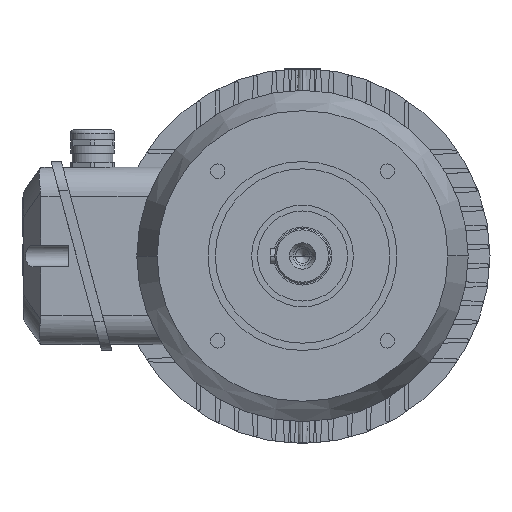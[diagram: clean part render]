
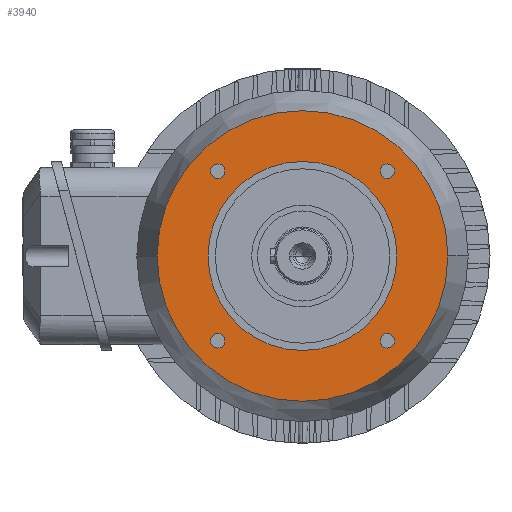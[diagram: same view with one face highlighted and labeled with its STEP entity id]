
A CAD part, left-side view. The second image highlights one B-rep face of the part: STEP entity #3940.
In plain terms, the highlighted planar face has unit normal (-1, 0, 0).
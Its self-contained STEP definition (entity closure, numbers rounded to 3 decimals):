
#486 = ORIENTED_EDGE ( 'NONE', *, *, #10160, .F. ) ;
#1226 = CARTESIAN_POINT ( 'NONE',  ( -70., 58.336, 58.336 ) ) ;
#1268 = FACE_BOUND ( 'NONE', #22925, .T. ) ;
#1806 = VERTEX_POINT ( 'NONE', #25703 ) ;
#3317 = CARTESIAN_POINT ( 'NONE',  ( -70., 100., 0. ) ) ;
#3547 = DIRECTION ( 'NONE',  ( -1., 0., 0. ) ) ;
#3940 = ADVANCED_FACE ( 'NONE', ( #15236, #1268, #24929, #12746, #6668, #10609 ), #24000, .T. ) ;
#4149 = CIRCLE ( 'NONE', #16829, 65. ) ;
#4763 = CIRCLE ( 'NONE', #25343, 5. ) ;
#5080 = VERTEX_POINT ( 'NONE', #12964 ) ;
#5202 = CIRCLE ( 'NONE', #6139, 5. ) ;
#5615 = ORIENTED_EDGE ( 'NONE', *, *, #24142, .F. ) ;
#5614 = AXIS2_PLACEMENT_3D ( 'NONE', #6294, #17411, #26912 ) ;
#6139 = AXIS2_PLACEMENT_3D ( 'NONE', #19499, #19611, #8285 ) ;
#6228 = DIRECTION ( 'NONE',  ( 0., 1., 0. ) ) ;
#6294 = CARTESIAN_POINT ( 'NONE',  ( -70., -58.336, 58.336 ) ) ;
#6343 = ORIENTED_EDGE ( 'NONE', *, *, #25449, .F. ) ;
#6668 = FACE_BOUND ( 'NONE', #22745, .T. ) ;
#6866 = VERTEX_POINT ( 'NONE', #19971 ) ;
#6918 = CARTESIAN_POINT ( 'NONE',  ( -70., 0., 0. ) ) ;
#6929 = DIRECTION ( 'NONE',  ( 1., 0., 0. ) ) ;
#7898 = CARTESIAN_POINT ( 'NONE',  ( -70., 0., 0. ) ) ;
#7907 = ORIENTED_EDGE ( 'NONE', *, *, #27053, .F. ) ;
#8094 = CARTESIAN_POINT ( 'NONE',  ( -70., 53.336, 58.336 ) ) ;
#8135 = CARTESIAN_POINT ( 'NONE',  ( -70., -58.336, -58.336 ) ) ;
#8285 = DIRECTION ( 'NONE',  ( 0., -1., 0. ) ) ;
#8471 = VERTEX_POINT ( 'NONE', #14765 ) ;
#8573 = DIRECTION ( 'NONE',  ( -1., 0., 0. ) ) ;
#8766 = CIRCLE ( 'NONE', #25437, 100. ) ;
#9118 = DIRECTION ( 'NONE',  ( 0., 1., 0. ) ) ;
#9860 = AXIS2_PLACEMENT_3D ( 'NONE', #26999, #8573, #17883 ) ;
#9928 = ORIENTED_EDGE ( 'NONE', *, *, #23928, .F. ) ;
#10088 = AXIS2_PLACEMENT_3D ( 'NONE', #27112, #11176, #22794 ) ;
#10160 = EDGE_CURVE ( 'NONE', #24847, #12780, #18676, .T. ) ;
#10466 = CARTESIAN_POINT ( 'NONE',  ( -70., 65., 0. ) ) ;
#10609 = FACE_BOUND ( 'NONE', #15237, .T. ) ;
#11176 = DIRECTION ( 'NONE',  ( -1., 0., 0. ) ) ;
#11678 = VERTEX_POINT ( 'NONE', #14883 ) ;
#11939 = CARTESIAN_POINT ( 'NONE',  ( -70., 53.336, -58.336 ) ) ;
#11965 = AXIS2_PLACEMENT_3D ( 'NONE', #28336, #19097, #21513 ) ;
#12297 = CARTESIAN_POINT ( 'NONE',  ( -70., 58.336, 58.336 ) ) ;
#12746 = FACE_BOUND ( 'NONE', #25530, .T. ) ;
#12760 = DIRECTION ( 'NONE',  ( -1., 0., 0. ) ) ;
#12761 = DIRECTION ( 'NONE',  ( 0., -1., 0. ) ) ;
#12780 = VERTEX_POINT ( 'NONE', #29159 ) ;
#12798 = DIRECTION ( 'NONE',  ( 1., 0., 0. ) ) ;
#12964 = CARTESIAN_POINT ( 'NONE',  ( -70., -65., 0. ) ) ;
#13076 = ORIENTED_EDGE ( 'NONE', *, *, #15718, .F. ) ;
#13879 = VERTEX_POINT ( 'NONE', #11939 ) ;
#14765 = CARTESIAN_POINT ( 'NONE',  ( -70., 63.336, -58.336 ) ) ;
#14883 = CARTESIAN_POINT ( 'NONE',  ( -70., -63.336, 58.336 ) ) ;
#15068 = AXIS2_PLACEMENT_3D ( 'NONE', #1226, #21989, #12761 ) ;
#15236 = FACE_OUTER_BOUND ( 'NONE', #21253, .T. ) ;
#15237 = EDGE_LOOP ( 'NONE', ( #27673, #26051 ) ) ;
#15718 = EDGE_CURVE ( 'NONE', #17676, #20536, #18446, .T. ) ;
#15834 = CARTESIAN_POINT ( 'NONE',  ( -70., -53.336, -58.336 ) ) ;
#16115 = EDGE_CURVE ( 'NONE', #12780, #24847, #8766, .T. ) ;
#16426 = AXIS2_PLACEMENT_3D ( 'NONE', #10466, #12760, #21891 ) ;
#16829 = AXIS2_PLACEMENT_3D ( 'NONE', #25134, #6929, #6228 ) ;
#16882 = EDGE_CURVE ( 'NONE', #25010, #18834, #25542, .T. ) ;
#17309 = AXIS2_PLACEMENT_3D ( 'NONE', #24714, #24900, #25088 ) ;
#17411 = DIRECTION ( 'NONE',  ( -1., 0., 0. ) ) ;
#17676 = VERTEX_POINT ( 'NONE', #20026 ) ;
#17883 = DIRECTION ( 'NONE',  ( 0., -1., 0. ) ) ;
#18267 = ORIENTED_EDGE ( 'NONE', *, *, #20402, .F. ) ;
#18446 = CIRCLE ( 'NONE', #25033, 5. ) ;
#18676 = CIRCLE ( 'NONE', #27514, 100. ) ;
#18834 = VERTEX_POINT ( 'NONE', #8094 ) ;
#19097 = DIRECTION ( 'NONE',  ( 1., 0., 0. ) ) ;
#19249 = CIRCLE ( 'NONE', #10088, 5. ) ;
#19307 = DIRECTION ( 'NONE',  ( 0., -1., 0. ) ) ;
#19396 = DIRECTION ( 'NONE',  ( -1., 0., 0. ) ) ;
#19499 = CARTESIAN_POINT ( 'NONE',  ( -70., -58.336, -58.336 ) ) ;
#19611 = DIRECTION ( 'NONE',  ( -1., 0., 0. ) ) ;
#19619 = CIRCLE ( 'NONE', #9860, 5. ) ;
#19971 = CARTESIAN_POINT ( 'NONE',  ( -70., 65., 0. ) ) ;
#20026 = CARTESIAN_POINT ( 'NONE',  ( -70., -63.336, -58.336 ) ) ;
#20402 = EDGE_CURVE ( 'NONE', #20536, #17676, #5202, .T. ) ;
#20536 = VERTEX_POINT ( 'NONE', #15834 ) ;
#21253 = EDGE_LOOP ( 'NONE', ( #486, #23550 ) ) ;
#21397 = ORIENTED_EDGE ( 'NONE', *, *, #16882, .F. ) ;
#21513 = DIRECTION ( 'NONE',  ( 0., 1., 0. ) ) ;
#21817 = EDGE_CURVE ( 'NONE', #18834, #25010, #4763, .T. ) ;
#21891 = DIRECTION ( 'NONE',  ( 0., 1., 0. ) ) ;
#21989 = DIRECTION ( 'NONE',  ( -1., 0., 0. ) ) ;
#22017 = DIRECTION ( 'NONE',  ( 0., 1., 0. ) ) ;
#22745 = EDGE_LOOP ( 'NONE', ( #5615, #6343 ) ) ;
#22794 = DIRECTION ( 'NONE',  ( 0., -1., 0. ) ) ;
#22925 = EDGE_LOOP ( 'NONE', ( #28680, #21397 ) ) ;
#23238 = CARTESIAN_POINT ( 'NONE',  ( -70., 63.336, 58.336 ) ) ;
#23550 = ORIENTED_EDGE ( 'NONE', *, *, #16115, .F. ) ;
#23620 = CIRCLE ( 'NONE', #17309, 5. ) ;
#23928 = EDGE_CURVE ( 'NONE', #1806, #11678, #27228, .T. ) ;
#24000 = PLANE ( 'NONE',  #16426 ) ;
#24142 = EDGE_CURVE ( 'NONE', #13879, #8471, #23620, .T. ) ;
#24714 = CARTESIAN_POINT ( 'NONE',  ( -70., 58.336, -58.336 ) ) ;
#24847 = VERTEX_POINT ( 'NONE', #3317 ) ;
#24900 = DIRECTION ( 'NONE',  ( -1., 0., 0. ) ) ;
#24929 = FACE_BOUND ( 'NONE', #28770, .T. ) ;
#25010 = VERTEX_POINT ( 'NONE', #23238 ) ;
#25033 = AXIS2_PLACEMENT_3D ( 'NONE', #8135, #3547, #28693 ) ;
#25088 = DIRECTION ( 'NONE',  ( 0., -1., 0. ) ) ;
#25120 = EDGE_CURVE ( 'NONE', #6866, #5080, #29001, .T. ) ;
#25134 = CARTESIAN_POINT ( 'NONE',  ( -70., 0., 0. ) ) ;
#25343 = AXIS2_PLACEMENT_3D ( 'NONE', #12297, #19396, #19307 ) ;
#25437 = AXIS2_PLACEMENT_3D ( 'NONE', #6918, #25528, #9118 ) ;
#25449 = EDGE_CURVE ( 'NONE', #8471, #13879, #19619, .T. ) ;
#25528 = DIRECTION ( 'NONE',  ( 1., 0., 0. ) ) ;
#25530 = EDGE_LOOP ( 'NONE', ( #13076, #18267 ) ) ;
#25542 = CIRCLE ( 'NONE', #15068, 5. ) ;
#25703 = CARTESIAN_POINT ( 'NONE',  ( -70., -53.336, 58.336 ) ) ;
#26051 = ORIENTED_EDGE ( 'NONE', *, *, #28057, .T. ) ;
#26912 = DIRECTION ( 'NONE',  ( 0., -1., 0. ) ) ;
#26999 = CARTESIAN_POINT ( 'NONE',  ( -70., 58.336, -58.336 ) ) ;
#27053 = EDGE_CURVE ( 'NONE', #11678, #1806, #19249, .T. ) ;
#27112 = CARTESIAN_POINT ( 'NONE',  ( -70., -58.336, 58.336 ) ) ;
#27228 = CIRCLE ( 'NONE', #5614, 5. ) ;
#27514 = AXIS2_PLACEMENT_3D ( 'NONE', #7898, #12798, #22017 ) ;
#27673 = ORIENTED_EDGE ( 'NONE', *, *, #25120, .T. ) ;
#28057 = EDGE_CURVE ( 'NONE', #5080, #6866, #4149, .T. ) ;
#28336 = CARTESIAN_POINT ( 'NONE',  ( -70., 0., 0. ) ) ;
#28680 = ORIENTED_EDGE ( 'NONE', *, *, #21817, .F. ) ;
#28693 = DIRECTION ( 'NONE',  ( 0., -1., 0. ) ) ;
#28770 = EDGE_LOOP ( 'NONE', ( #7907, #9928 ) ) ;
#29001 = CIRCLE ( 'NONE', #11965, 65. ) ;
#29159 = CARTESIAN_POINT ( 'NONE',  ( -70., -100., 0. ) ) ;
